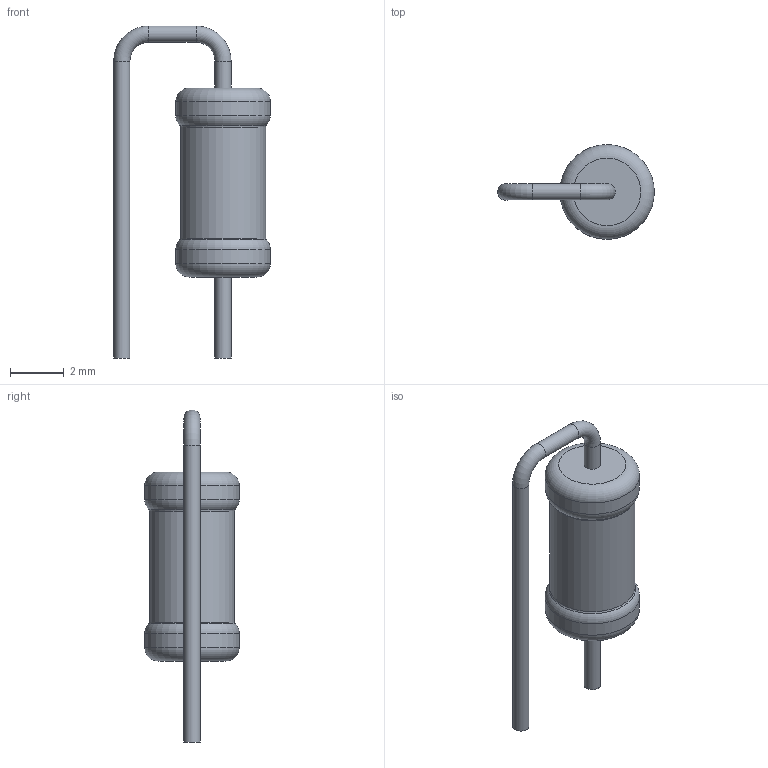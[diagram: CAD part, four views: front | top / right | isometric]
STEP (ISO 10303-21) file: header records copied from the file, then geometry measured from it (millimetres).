
FILE_DESCRIPTION(('STEP AP203'), '1');
FILE_NAME('栖闉罻', '', ('UNSPECIFIED'), ('UNSPECIFIED'), 'ASCON STEP Converter 1.6', 'ASCON Math Kernel', '');
FILE_SCHEMA(('CONFIG_CONTROL_DESIGN'));
Length unit declared in the file: millimetre
Assembly tree (1 placements, depth 2):
  (unnamed)
    (unnamed)
Bounding box: 5.8 x 3.5 x 12.3 mm (x, y, z)
Volume: 63.7 mm3; surface area: 124.9 mm2
Topology: 1 solids, 1 shells, 19 faces, 33 edges, 18 vertices
Faces by surface type: torus 8, cylinder 7, plane 4
Full cylindrical faces by diameter (mm): 0.6 x4, 3.149 x1, 3.5 x2
Entity records: 620 total; most frequent: DIRECTION 78, CARTESIAN_POINT 57, AXIS2_PLACEMENT_3D 39, EDGE_LOOP 36, ORIENTED_EDGE 36, FACE_OUTER_BOUND 30, COLOUR_RGB 20, FILL_AREA_STYLE_COLOUR 20
